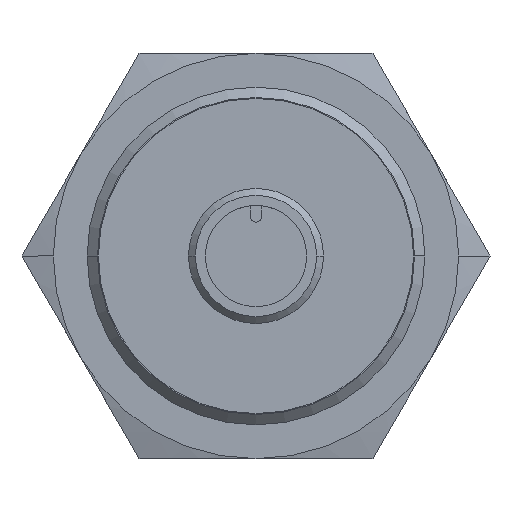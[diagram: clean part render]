
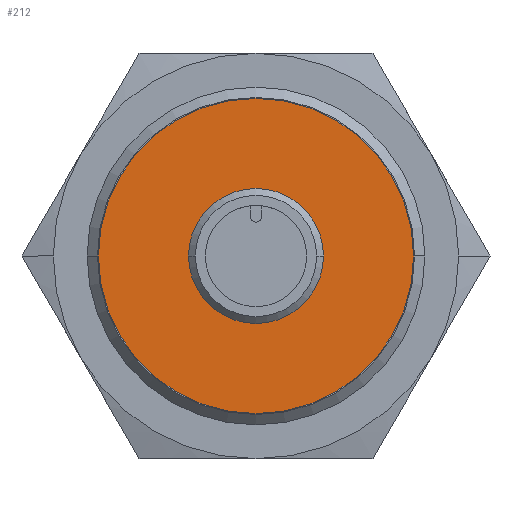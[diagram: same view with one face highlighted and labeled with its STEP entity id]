
A CAD part, left-side view. The second image highlights one B-rep face of the part: STEP entity #212.
In plain terms, the highlighted planar face has unit normal (-1, 0, 0).
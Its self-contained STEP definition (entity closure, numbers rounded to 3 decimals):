
#212 = ADVANCED_FACE( '', ( #361, #362 ), #363, .T. );
#361 = FACE_BOUND( '', #575, .T. );
#362 = FACE_OUTER_BOUND( '', #576, .T. );
#363 = PLANE( '', #577 );
#575 = EDGE_LOOP( '', ( #1009, #1010 ) );
#576 = EDGE_LOOP( '', ( #1011, #1012 ) );
#577 = AXIS2_PLACEMENT_3D( '', #1013, #1014, #1015 );
#1009 = ORIENTED_EDGE( '', *, *, #1524, .T. );
#1010 = ORIENTED_EDGE( '', *, *, #1491, .T. );
#1011 = ORIENTED_EDGE( '', *, *, #1455, .T. );
#1012 = ORIENTED_EDGE( '', *, *, #1545, .T. );
#1013 = CARTESIAN_POINT( '', ( 13., 7., 0. ) );
#1014 = DIRECTION( '', ( -1., 0., 0. ) );
#1015 = DIRECTION( '', ( 0., 1., 0. ) );
#1455 = EDGE_CURVE( '', #1675, #1679, #1681, .T. );
#1491 = EDGE_CURVE( '', #1749, #1746, #1750, .T. );
#1524 = EDGE_CURVE( '', #1746, #1749, #1802, .T. );
#1545 = EDGE_CURVE( '', #1679, #1675, #1827, .T. );
#1675 = VERTEX_POINT( '', #2029 );
#1679 = VERTEX_POINT( '', #2034 );
#1681 = CIRCLE( '', #2037, 14. );
#1746 = VERTEX_POINT( '', #2156 );
#1749 = VERTEX_POINT( '', #2160 );
#1750 = CIRCLE( '', #2161, 5. );
#1802 = CIRCLE( '', #2451, 5. );
#1827 = CIRCLE( '', #2499, 14. );
#2029 = CARTESIAN_POINT( '', ( 13., 14., 0. ) );
#2034 = CARTESIAN_POINT( '', ( 13., -14., 0. ) );
#2037 = AXIS2_PLACEMENT_3D( '', #3169, #3170, #3171 );
#2156 = CARTESIAN_POINT( '', ( 13., 5., 0. ) );
#2160 = CARTESIAN_POINT( '', ( 13., -5., 0. ) );
#2161 = AXIS2_PLACEMENT_3D( '', #3227, #3228, #3229 );
#2451 = AXIS2_PLACEMENT_3D( '', #3247, #3248, #3249 );
#2499 = AXIS2_PLACEMENT_3D( '', #3295, #3296, #3297 );
#3169 = CARTESIAN_POINT( '', ( 13., 0., 0. ) );
#3170 = DIRECTION( '', ( -1., 0., 0. ) );
#3171 = DIRECTION( '', ( 0., 1., 0. ) );
#3227 = CARTESIAN_POINT( '', ( 13., 0., 0. ) );
#3228 = DIRECTION( '', ( 1., 0., 0. ) );
#3229 = DIRECTION( '', ( 0., 1., 0. ) );
#3247 = CARTESIAN_POINT( '', ( 13., 0., 0. ) );
#3248 = DIRECTION( '', ( 1., 0., 0. ) );
#3249 = DIRECTION( '', ( 0., 1., 0. ) );
#3295 = CARTESIAN_POINT( '', ( 13., 0., 0. ) );
#3296 = DIRECTION( '', ( -1., 0., 0. ) );
#3297 = DIRECTION( '', ( 0., 1., 0. ) );
